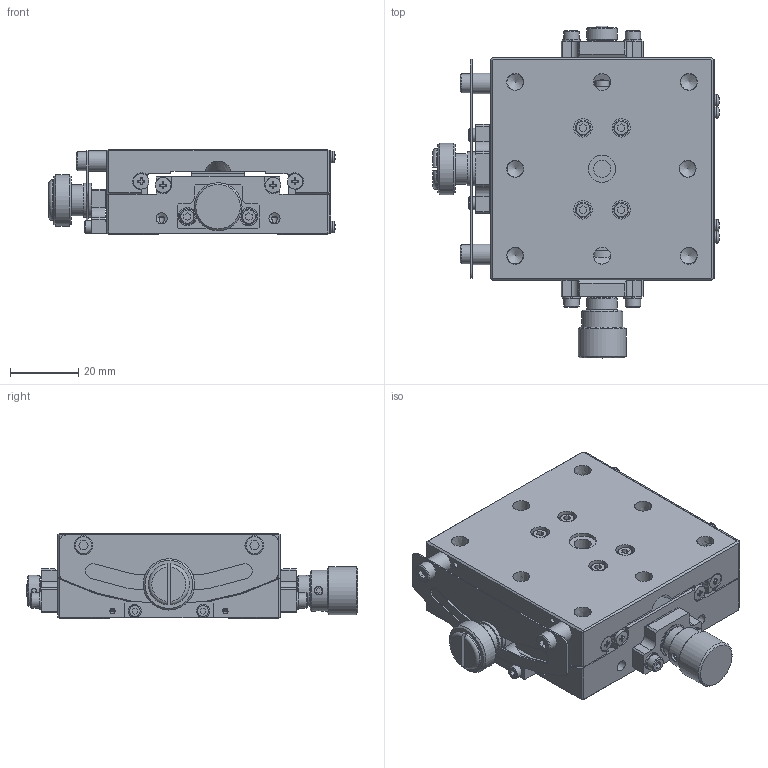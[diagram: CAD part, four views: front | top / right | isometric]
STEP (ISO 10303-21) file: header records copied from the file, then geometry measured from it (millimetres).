
FILE_DESCRIPTION((''),'2;1');
FILE_NAME('Y:\3DDATA\2_OpticalHard\02_海外製品\1_Stags\GOHT\□65\GOHT-65A50BRUU\GOHT-65A50BRUU.stp','2014-05-22T19:00:12',('m.kadoya'),(''),'Autodesk Inventor 2008','Autodesk Inventor 2008','');
FILE_SCHEMA(('AUTOMOTIVE_DESIGN { 1 0 10303 214 1 1 1 1 }'));
Length unit declared in the file: millimetre
Products named in the file (3): GOHT65A50BRUU-M02-08001-ST01; GOHT65A50BRUU-M02-08001-S09; GOHT65A50BUU-M02-08001-S08
Assembly tree (2 placements, depth 2):
  GOHT65A50BRUU-M02-08001-ST01
    GOHT65A50BRUU-M02-08001-S09
    GOHT65A50BUU-M02-08001-S08
Bounding box: 83.74 x 97.1 x 25 mm (x, y, z)
Volume: 88365.4 mm3; surface area: 41412.2 mm2
Topology: 2 solids, 43 shells, 1078 faces, 2675 edges, 1743 vertices
Faces by surface type: plane 590, bspline 215, cylinder 175, cone 61, torus 25, sphere 12
Full cylindrical faces by diameter (mm): 1.5 x8, 2 x6, 2.459 x2, 2.5 x8, 3 x3, 3.8 x2, 4 x6, 4.2 x2, 4.5 x16, 5.2 x1, 5.5 x2, 5.8 x2, 5.92 x8, 6 x2, 6.9 x2, 7 x4, 8 x2, 8.08 x4, 8.484 x4, 9 x3, 10 x2, 12 x5, 14 x1, 15 x1
Entity records: 34398 total; most frequent: CARTESIAN_POINT 11620, DIRECTION 4544, ORIENTED_EDGE 4264, EDGE_CURVE 2132, AXIS2_PLACEMENT_3D 1712, EDGE_LOOP 1594, VERTEX_POINT 1548, VECTOR 1120
